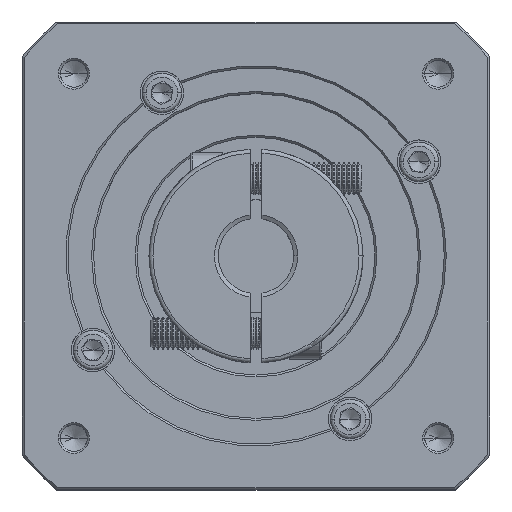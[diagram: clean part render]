
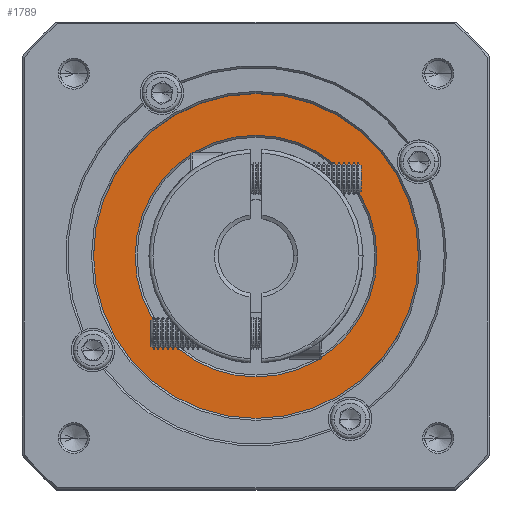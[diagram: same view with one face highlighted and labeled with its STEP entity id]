
A CAD part, top view. The second image highlights one B-rep face of the part: STEP entity #1789.
In plain terms, the highlighted planar face has unit normal (0, 0, 1).
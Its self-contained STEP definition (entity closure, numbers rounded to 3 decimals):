
#599 = DIRECTION ( 'NONE',  ( 0., 0., 1. ) ) ;
#1789 = ADVANCED_FACE ( 'NONE', ( #12195, #112555 ), #80469, .T. ) ;
#2470 = CIRCLE ( 'NONE', #55776, 30.5 ) ;
#4123 = ORIENTED_EDGE ( 'NONE', *, *, #46629, .T. ) ;
#5060 = DIRECTION ( 'NONE',  ( 0., 0., -1. ) ) ;
#12195 = FACE_OUTER_BOUND ( 'NONE', #38010, .T. ) ;
#14174 = CIRCLE ( 'NONE', #99530, 41. ) ;
#14323 = CARTESIAN_POINT ( 'NONE',  ( 73.348, 138.859, 38.453 ) ) ;
#23848 = DIRECTION ( 'NONE',  ( 1., 0., 0. ) ) ;
#25742 = CARTESIAN_POINT ( 'NONE',  ( 73.348, 169.359, 38.453 ) ) ;
#26322 = DIRECTION ( 'NONE',  ( 0., 0., 1. ) ) ;
#27411 = ORIENTED_EDGE ( 'NONE', *, *, #70479, .T. ) ;
#35222 = CARTESIAN_POINT ( 'NONE',  ( 73.348, 108.359, 38.453 ) ) ;
#38010 = EDGE_LOOP ( 'NONE', ( #4123, #27411 ) ) ;
#40268 = DIRECTION ( 'NONE',  ( 0., 0., -1. ) ) ;
#46629 = EDGE_CURVE ( 'NONE', #75022, #80691, #73838, .T. ) ;
#47522 = AXIS2_PLACEMENT_3D ( 'NONE', #96802, #40268, #106258 ) ;
#47606 = ORIENTED_EDGE ( 'NONE', *, *, #47698, .T. ) ;
#47698 = EDGE_CURVE ( 'NONE', #87618, #61498, #75871, .T. ) ;
#52048 = ORIENTED_EDGE ( 'NONE', *, *, #80571, .T. ) ;
#55776 = AXIS2_PLACEMENT_3D ( 'NONE', #61513, #5060, #71018 ) ;
#56000 = AXIS2_PLACEMENT_3D ( 'NONE', #14323, #80335, #23848 ) ;
#57001 = CARTESIAN_POINT ( 'NONE',  ( 73.348, 138.859, 38.453 ) ) ;
#61498 = VERTEX_POINT ( 'NONE', #25742 ) ;
#61513 = CARTESIAN_POINT ( 'NONE',  ( 73.348, 138.859, 38.453 ) ) ;
#66500 = DIRECTION ( 'NONE',  ( 1., 0., 0. ) ) ;
#70479 = EDGE_CURVE ( 'NONE', #80691, #75022, #14174, .T. ) ;
#71018 = DIRECTION ( 'NONE',  ( 0., -1., 0. ) ) ;
#72259 = CARTESIAN_POINT ( 'NONE',  ( 32.348, 138.859, 38.453 ) ) ;
#73838 = CIRCLE ( 'NONE', #93191, 41. ) ;
#75022 = VERTEX_POINT ( 'NONE', #85660 ) ;
#75871 = CIRCLE ( 'NONE', #47522, 30.5 ) ;
#80335 = DIRECTION ( 'NONE',  ( 0., 0., 1. ) ) ;
#80469 = PLANE ( 'NONE',  #56000 ) ;
#80571 = EDGE_CURVE ( 'NONE', #61498, #87618, #2470, .T. ) ;
#80691 = VERTEX_POINT ( 'NONE', #72259 ) ;
#82844 = CARTESIAN_POINT ( 'NONE',  ( 73.348, 138.859, 38.453 ) ) ;
#85660 = CARTESIAN_POINT ( 'NONE',  ( 114.348, 138.859, 38.453 ) ) ;
#87618 = VERTEX_POINT ( 'NONE', #35222 ) ;
#92303 = DIRECTION ( 'NONE',  ( 1., 0., 0. ) ) ;
#93191 = AXIS2_PLACEMENT_3D ( 'NONE', #57001, #599, #66500 ) ;
#94230 = EDGE_LOOP ( 'NONE', ( #47606, #52048 ) ) ;
#96802 = CARTESIAN_POINT ( 'NONE',  ( 73.348, 138.859, 38.453 ) ) ;
#99530 = AXIS2_PLACEMENT_3D ( 'NONE', #82844, #26322, #92303 ) ;
#106258 = DIRECTION ( 'NONE',  ( 0., -1., 0. ) ) ;
#112555 = FACE_BOUND ( 'NONE', #94230, .T. ) ;
